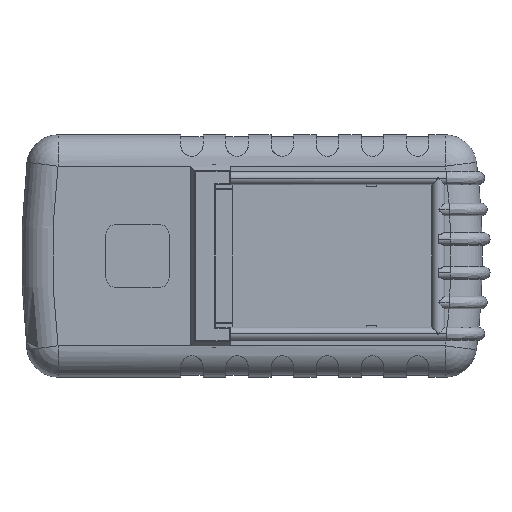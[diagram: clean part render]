
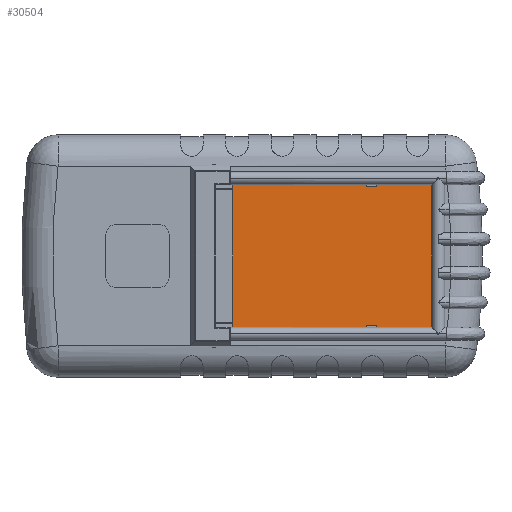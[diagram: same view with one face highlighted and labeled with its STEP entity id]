
A CAD part, front view. The second image highlights one B-rep face of the part: STEP entity #30504.
In plain terms, the highlighted planar face has unit normal (0, -1, 0).
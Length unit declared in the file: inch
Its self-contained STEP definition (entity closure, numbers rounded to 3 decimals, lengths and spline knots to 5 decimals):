
#49 = LINE ( 'NONE', #34953, #26593 ) ;
#195 = ORIENTED_EDGE ( 'NONE', *, *, #7272, .F. ) ;
#1483 = CARTESIAN_POINT ( 'NONE',  ( 2.35422, 0.08, 1.31062 ) ) ;
#2251 = CARTESIAN_POINT ( 'NONE',  ( 3.39416, 0.08, 1.3435 ) ) ;
#2809 = VECTOR ( 'NONE', #40477, 39.37008 ) ;
#3025 = VERTEX_POINT ( 'NONE', #6540 ) ;
#3709 = EDGE_CURVE ( 'NONE', #34727, #35636, #32061, .T. ) ;
#3800 = VERTEX_POINT ( 'NONE', #30669 ) ;
#4335 = CARTESIAN_POINT ( 'NONE',  ( -0.35584, 0.08, -1.3435 ) ) ;
#4477 = ORIENTED_EDGE ( 'NONE', *, *, #3709, .T. ) ;
#4926 = VECTOR ( 'NONE', #32630, 39.37008 ) ;
#4955 = DIRECTION ( 'NONE',  ( 0., 0., 1. ) ) ;
#5650 = VECTOR ( 'NONE', #6951, 39.37008 ) ;
#5746 = EDGE_CURVE ( 'NONE', #35636, #41205, #28754, .T. ) ;
#6540 = CARTESIAN_POINT ( 'NONE',  ( 2.15422, 0.08, 1.3435 ) ) ;
#6951 = DIRECTION ( 'NONE',  ( -1., 0., 0. ) ) ;
#7272 = EDGE_CURVE ( 'NONE', #8110, #38440, #41405, .T. ) ;
#7909 = ORIENTED_EDGE ( 'NONE', *, *, #34691, .T. ) ;
#8110 = VERTEX_POINT ( 'NONE', #23296 ) ;
#8279 = PLANE ( 'NONE',  #38507 ) ;
#8641 = LINE ( 'NONE', #35999, #17430 ) ;
#8994 = CARTESIAN_POINT ( 'NONE',  ( 3.39416, 0.08, 1.3435 ) ) ;
#9967 = ORIENTED_EDGE ( 'NONE', *, *, #31408, .T. ) ;
#9995 = CARTESIAN_POINT ( 'NONE',  ( -0.35584, 0.08, 1.3435 ) ) ;
#10112 = VERTEX_POINT ( 'NONE', #38965 ) ;
#10121 = VECTOR ( 'NONE', #20308, 39.37008 ) ;
#10362 = CARTESIAN_POINT ( 'NONE',  ( -0.35584, 0.08, 1.3435 ) ) ;
#10462 = VERTEX_POINT ( 'NONE', #25992 ) ;
#11368 = DIRECTION ( 'NONE',  ( 0., 0., -1. ) ) ;
#11452 = ORIENTED_EDGE ( 'NONE', *, *, #5746, .T. ) ;
#11940 = ORIENTED_EDGE ( 'NONE', *, *, #38361, .T. ) ;
#12108 = ORIENTED_EDGE ( 'NONE', *, *, #30274, .T. ) ;
#12213 = CARTESIAN_POINT ( 'NONE',  ( 0., 0.08, 0. ) ) ;
#12866 = CARTESIAN_POINT ( 'NONE',  ( 3.39416, 0.08, -1.3435 ) ) ;
#12890 = DIRECTION ( 'NONE',  ( 1., 0., 0. ) ) ;
#13200 = EDGE_CURVE ( 'NONE', #3800, #34727, #33440, .T. ) ;
#13545 = ORIENTED_EDGE ( 'NONE', *, *, #20168, .T. ) ;
#13820 = ORIENTED_EDGE ( 'NONE', *, *, #31742, .F. ) ;
#14606 = VECTOR ( 'NONE', #28522, 39.37008 ) ;
#14710 = EDGE_CURVE ( 'NONE', #38440, #31911, #49, .T. ) ;
#15524 = DIRECTION ( 'NONE',  ( 0., -1., 0. ) ) ;
#16407 = VECTOR ( 'NONE', #42584, 39.37008 ) ;
#17430 = VECTOR ( 'NONE', #12890, 39.37008 ) ;
#17971 = CARTESIAN_POINT ( 'NONE',  ( 2.35422, 0.08, -1.31062 ) ) ;
#19979 = VECTOR ( 'NONE', #11368, 39.37008 ) ;
#20168 = EDGE_CURVE ( 'NONE', #3025, #24511, #34181, .T. ) ;
#20263 = CARTESIAN_POINT ( 'NONE',  ( 3.39416, 0.08, 1.3435 ) ) ;
#20308 = DIRECTION ( 'NONE',  ( 0., 0., -1. ) ) ;
#20705 = CARTESIAN_POINT ( 'NONE',  ( 2.15422, 0.08, 0. ) ) ;
#21809 = LINE ( 'NONE', #4335, #22835 ) ;
#22835 = VECTOR ( 'NONE', #27521, 39.37008 ) ;
#23296 = CARTESIAN_POINT ( 'NONE',  ( 2.35422, 0.08, -1.3435 ) ) ;
#24511 = VERTEX_POINT ( 'NONE', #9995 ) ;
#24826 = CARTESIAN_POINT ( 'NONE',  ( 2.35422, 0.08, 0. ) ) ;
#24994 = DIRECTION ( 'NONE',  ( -1., 0., 0. ) ) ;
#25683 = EDGE_LOOP ( 'NONE', ( #7909, #9967, #13545, #12108, #41005, #13820, #28741, #195, #11940, #42613, #4477, #11452 ) ) ;
#25992 = CARTESIAN_POINT ( 'NONE',  ( -0.35584, 0.08, -1.3435 ) ) ;
#26121 = CARTESIAN_POINT ( 'NONE',  ( 2.15422, 0.08, 0. ) ) ;
#26593 = VECTOR ( 'NONE', #24994, 39.37008 ) ;
#27521 = DIRECTION ( 'NONE',  ( 1., 0., 0. ) ) ;
#27677 = LINE ( 'NONE', #10362, #10121 ) ;
#27792 = CARTESIAN_POINT ( 'NONE',  ( 2.35422, 0.08, 0. ) ) ;
#28237 = LINE ( 'NONE', #20705, #2809 ) ;
#28522 = DIRECTION ( 'NONE',  ( -1., 0., 0. ) ) ;
#28741 = ORIENTED_EDGE ( 'NONE', *, *, #14710, .F. ) ;
#28754 = LINE ( 'NONE', #27792, #19979 ) ;
#29148 = VERTEX_POINT ( 'NONE', #42493 ) ;
#30274 = EDGE_CURVE ( 'NONE', #24511, #10462, #27677, .T. ) ;
#30504 = ADVANCED_FACE ( 'NONE', ( #42757 ), #8279, .T. ) ;
#30631 = CARTESIAN_POINT ( 'NONE',  ( 2.35422, 0.08, 1.3435 ) ) ;
#30669 = CARTESIAN_POINT ( 'NONE',  ( 3.39416, 0.08, -1.3435 ) ) ;
#31408 = EDGE_CURVE ( 'NONE', #29148, #3025, #28237, .T. ) ;
#31612 = VECTOR ( 'NONE', #4955, 39.37008 ) ;
#31731 = EDGE_CURVE ( 'NONE', #10462, #10112, #8641, .T. ) ;
#31742 = EDGE_CURVE ( 'NONE', #31911, #10112, #35035, .T. ) ;
#31846 = CARTESIAN_POINT ( 'NONE',  ( 0., 0.08, 1.31062 ) ) ;
#31911 = VERTEX_POINT ( 'NONE', #37434 ) ;
#32061 = LINE ( 'NONE', #20263, #5650 ) ;
#32108 = DIRECTION ( 'NONE',  ( -1., 0., 0. ) ) ;
#32630 = DIRECTION ( 'NONE',  ( 0., 0., 1. ) ) ;
#33440 = LINE ( 'NONE', #12866, #4926 ) ;
#34181 = LINE ( 'NONE', #8994, #41879 ) ;
#34691 = EDGE_CURVE ( 'NONE', #41205, #29148, #38877, .T. ) ;
#34727 = VERTEX_POINT ( 'NONE', #2251 ) ;
#34953 = CARTESIAN_POINT ( 'NONE',  ( 0., 0.08, -1.31062 ) ) ;
#35035 = LINE ( 'NONE', #26121, #16407 ) ;
#35636 = VERTEX_POINT ( 'NONE', #30631 ) ;
#35999 = CARTESIAN_POINT ( 'NONE',  ( -0.35584, 0.08, -1.3435 ) ) ;
#37434 = CARTESIAN_POINT ( 'NONE',  ( 2.15422, 0.08, -1.31062 ) ) ;
#38361 = EDGE_CURVE ( 'NONE', #8110, #3800, #21809, .T. ) ;
#38440 = VERTEX_POINT ( 'NONE', #17971 ) ;
#38507 = AXIS2_PLACEMENT_3D ( 'NONE', #12213, #15524, #38632 ) ;
#38632 = DIRECTION ( 'NONE',  ( 0., 0., -1. ) ) ;
#38877 = LINE ( 'NONE', #31846, #14606 ) ;
#38965 = CARTESIAN_POINT ( 'NONE',  ( 2.15422, 0.08, -1.3435 ) ) ;
#40477 = DIRECTION ( 'NONE',  ( 0., 0., 1. ) ) ;
#41005 = ORIENTED_EDGE ( 'NONE', *, *, #31731, .T. ) ;
#41205 = VERTEX_POINT ( 'NONE', #1483 ) ;
#41405 = LINE ( 'NONE', #24826, #31612 ) ;
#41879 = VECTOR ( 'NONE', #32108, 39.37008 ) ;
#42493 = CARTESIAN_POINT ( 'NONE',  ( 2.15422, 0.08, 1.31062 ) ) ;
#42584 = DIRECTION ( 'NONE',  ( 0., 0., -1. ) ) ;
#42613 = ORIENTED_EDGE ( 'NONE', *, *, #13200, .T. ) ;
#42757 = FACE_OUTER_BOUND ( 'NONE', #25683, .T. ) ;
